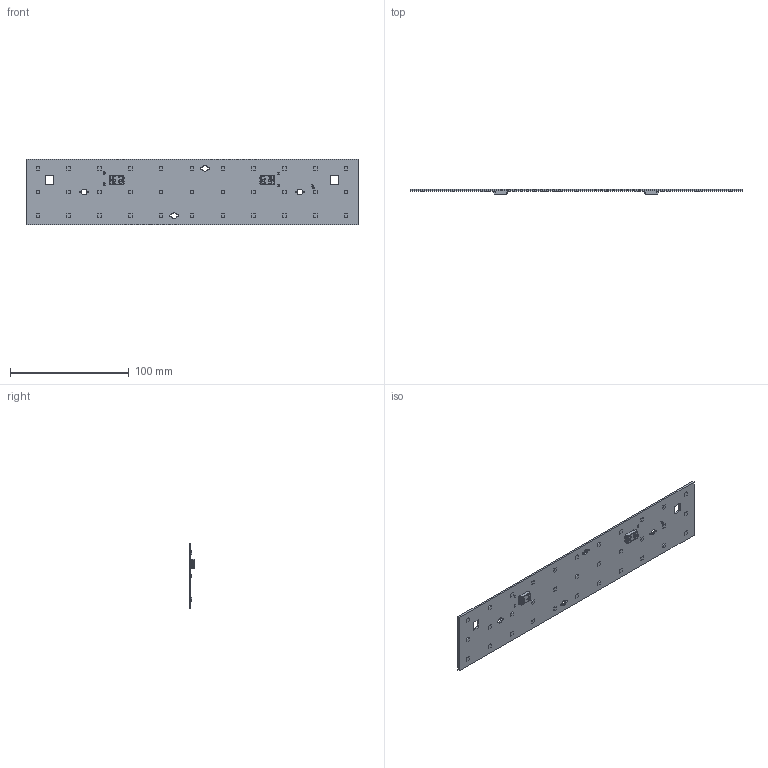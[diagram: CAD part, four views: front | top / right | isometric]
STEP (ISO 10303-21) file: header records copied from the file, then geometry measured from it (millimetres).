
FILE_DESCRIPTION(/* description */ ('Unknown'),/* implementation_level */ '2;1');
FILE_NAME(/* name */ 'LinLED 280x55mm 2000lm 3x11 33V G1 (33x3030) sh-000 2019-03-26',/* time_stamp */ '2019-03-26T12:37:00+01:00',/* author */ ('Unknown'),/* organization */ ('Unknown'),/* preprocessor_version */ 'ST-DEVELOPER v16.7',/* originating_system */ 'DEX',/* authorisation */ $);
FILE_SCHEMA (('AUTOMOTIVE_DESIGN {1 0 10303 214 3 1 1}'));
Length unit declared in the file: millimetre
Products named in the file (1): LinLED 280x55mm 2000lm 3x11 33V G1 (33x3030) sh-000 2019-03-26
Bounding box: 280 x 5 x 55 mm (x, y, z)
Volume: 25033.2 mm3; surface area: 32379.2 mm2
Topology: 1 solids, 1 shells, 1063 faces, 2699 edges, 1690 vertices
Faces by surface type: plane 560, cylinder 229, bspline 192, cone 40, torus 22, sphere 20
Full cylindrical faces by diameter (mm): 1.5 x1
Entity records: 43837 total; most frequent: CARTESIAN_POINT 12718, ORIENTED_EDGE 5320, DIRECTION 4140, EDGE_CURVE 2660, VERTEX_POINT 1680, LINE 1588, VECTOR 1588, AXIS2_PLACEMENT_3D 1276
